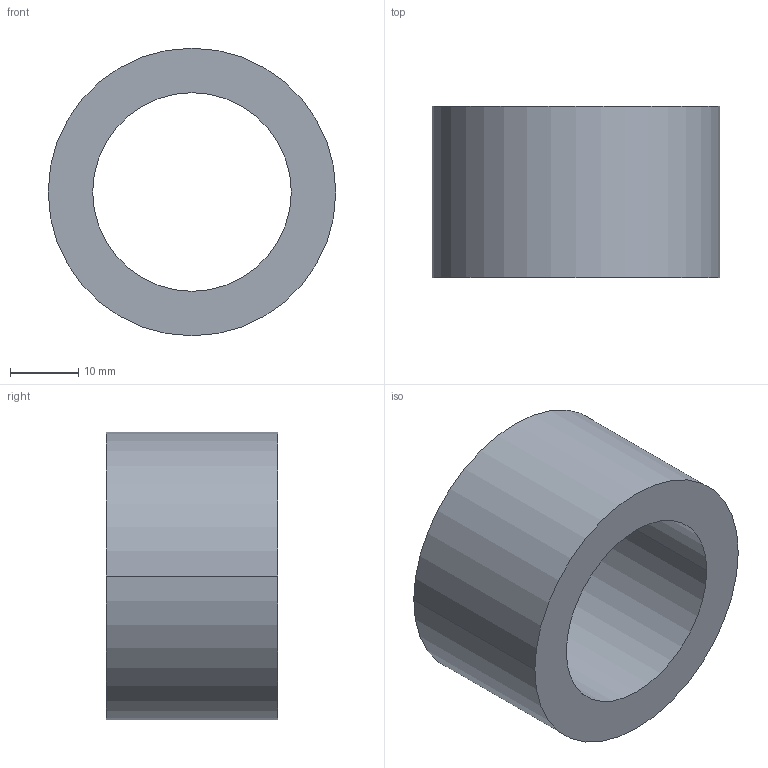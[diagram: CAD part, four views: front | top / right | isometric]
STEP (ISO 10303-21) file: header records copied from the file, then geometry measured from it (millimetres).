
FILE_DESCRIPTION (( 'STEP AP203' ), '1' );
FILE_NAME ('30800.WPP42J29.0.step', '2019-01-23T22:50:57', ( '' ), ( '' ), 'SwSTEP 2.0', 'SolidWorks 2017', '' );
FILE_SCHEMA (( 'CONFIG_CONTROL_DESIGN' ));
Length unit declared in the file: millimetre
Products named in the file (1): 30800.WPP42J29.0
Bounding box: 42 x 25 x 42 mm (x, y, z)
Volume: 17939 mm3; surface area: 6912.9 mm2
Topology: 1 solids, 1 shells, 8 faces, 16 edges, 10 vertices
Faces by surface type: cylinder 4, torus 2, plane 2
Entity records: 297 total; most frequent: DIRECTION 46, CARTESIAN_POINT 35, ORIENTED_EDGE 32, AXIS2_PLACEMENT_3D 21, EDGE_CURVE 16, CIRCLE 12, VERTEX_POINT 10, EDGE_LOOP 10
